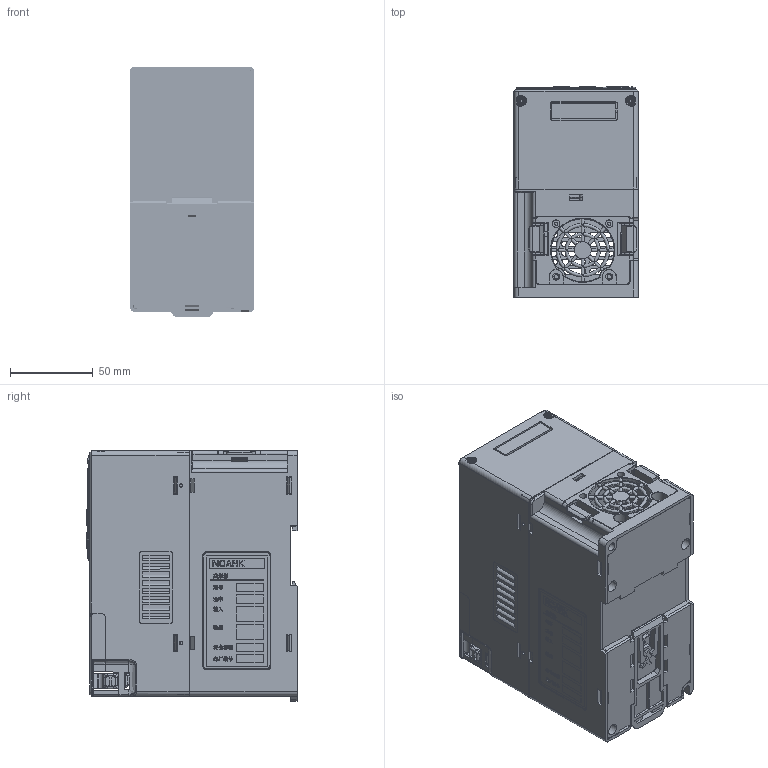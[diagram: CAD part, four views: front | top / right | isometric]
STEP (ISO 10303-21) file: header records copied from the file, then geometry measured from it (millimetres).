
FILE_DESCRIPTION((''),'2;1');
FILE_NAME('1-NVF200-2D2-PROE_ASM_1009_ASM__ASM','2021-06-23T15:17:04',('zhongfl'),(''),'CREO PARAMETRIC BY PTC INC, 2020044','CREO PARAMETRIC BY PTC INC, 2020044','');
FILE_SCHEMA(('CONFIG_CONTROL_DESIGN','SHAPE_APPEARANCE_LAYERS_GROUPS'));
Products named in the file (28): PLASTIC-PLATE-2D2_700_44_110_SO; M4TONGGLS-8_3_1_1; ASM0002_ASM_1_ASM; 5ZTD-355-082-B_ASM_1_ASM; BOTTOM-PLATE-1_180_1_1; BOTTOM-PLATE-2_78_3_1; BOTTOM-PLATE_ASM_101_ASM_1_ASM__ASM; FAN-COVER-2D2_47_4_1; BIAOQIAN-7040-NOARK_1_3_1; GND-PLATE-1_84_1_1_1; M4-KK-10_6_1; GND-PLATE_ASM_102_ASM_2_ASM_2_A_ASM; PC-IGBT-PLATE-0022CT_1; COPPER-PIPE_13_1_1; PLASTIC-PLATE-2D2_ASM_265_ASM_3_ASM; TOP-SHELL-0022CT_576_18_6; M3-NUT_3_1_1; TOP-SHELL-0022CT-576-18_ASM_1_ASM; PRODUCT_228829_22_2_1; LOGO-CHINT-3P_13_3_1; RUBBER-COVER_32_1_1; KWY-PLASTIC_27_1_1; PVC-KEY-BRAND_7_6_1; PVC-BRABD-2_6_5_1; TOP-COVER_140_10_6_1; TOP-SHELL-0022CT_ASM_227_ASM_17_ASM; 1-NVF200-2D2-PROE_ASM_1009_AS_1_ASM; 1-NVF200-2D2-PROE_ASM_1009_ASM__ASM
Assembly tree (33 placements, depth 6):
  1-NVF200-2D2-PROE_ASM_1009_ASM__ASM
    1-NVF200-2D2-PROE_ASM_1009_AS_1_ASM
      PLASTIC-PLATE-2D2_ASM_265_ASM_3_ASM
        5ZTD-355-082-B_ASM_1_ASM
          ASM0002_ASM_1_ASM
            PLASTIC-PLATE-2D2_700_44_110_SO
            M4TONGGLS-8_3_1_1
        BOTTOM-PLATE_ASM_101_ASM_1_ASM__ASM
          BOTTOM-PLATE-1_180_1_1
          BOTTOM-PLATE-2_78_3_1
        FAN-COVER-2D2_47_4_1
        BIAOQIAN-7040-NOARK_1_3_1
        GND-PLATE_ASM_102_ASM_2_ASM_2_A_ASM
          GND-PLATE-1_84_1_1_1
          M4-KK-10_6_1
        PC-IGBT-PLATE-0022CT_1
        COPPER-PIPE_13_1_1
      TOP-SHELL-0022CT_ASM_227_ASM_17_ASM
        TOP-SHELL-0022CT-576-18_ASM_1_ASM
          TOP-SHELL-0022CT_576_18_6
          M3-NUT_3_1_1  x2
        PRODUCT_228829_22_2_1
        LOGO-CHINT-3P_13_3_1
        RUBBER-COVER_32_1_1
        KWY-PLASTIC_27_1_1  x6
        PVC-KEY-BRAND_7_6_1
        PVC-BRABD-2_6_5_1
        TOP-COVER_140_10_6_1
Bounding box: 75.12 x 127.13 x 151.13 mm (x, y, z)
Volume: 199555.6 mm3; surface area: 251197.9 mm2
Topology: 25 solids, 28 shells, 7612 faces, 21796 edges, 14505 vertices
Faces by surface type: plane 5996, cylinder 1110, cone 159, extrusion 137, bspline 106, torus 88, sphere 16
Entity records: 314336 total; most frequent: CARTESIAN_POINT 64787, ORIENTED_EDGE 42694, DIRECTION 37055, EDGE_CURVE 21359, VECTOR 17677, LINE 17540, VERTEX_POINT 14214, AXIS2_PLACEMENT_3D 9689
